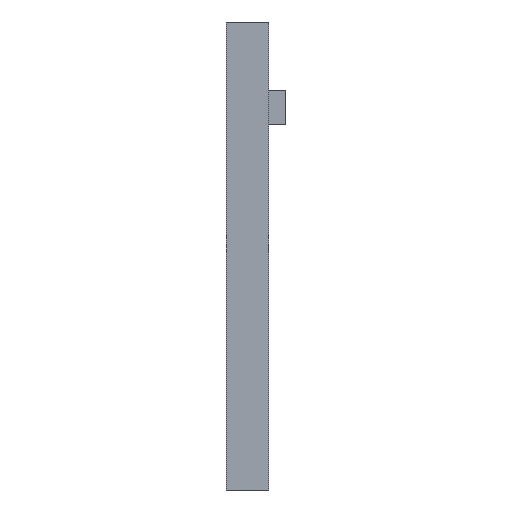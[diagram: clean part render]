
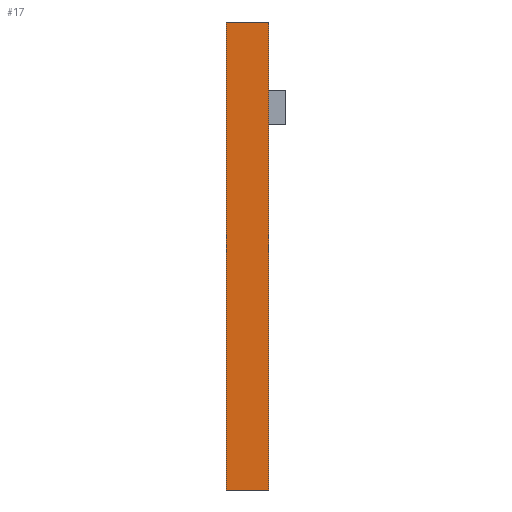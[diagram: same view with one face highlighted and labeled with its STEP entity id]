
A CAD part, left-side view. The second image highlights one B-rep face of the part: STEP entity #17.
In plain terms, the highlighted planar face has unit normal (-1, 0, 0).
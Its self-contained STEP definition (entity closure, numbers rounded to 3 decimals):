
#17 = ADVANCED_FACE('',(#18),#32,.F.);
#18 = FACE_BOUND('',#19,.F.);
#19 = EDGE_LOOP('',(#20,#55,#83,#111));
#20 = ORIENTED_EDGE('',*,*,#21,.F.);
#21 = EDGE_CURVE('',#22,#24,#26,.T.);
#22 = VERTEX_POINT('',#23);
#23 = CARTESIAN_POINT('',(-19.,2.,0.));
#24 = VERTEX_POINT('',#25);
#25 = CARTESIAN_POINT('',(-19.,2.,22.));
#26 = SURFACE_CURVE('',#27,(#31,#43),.PCURVE_S1.);
#27 = LINE('',#28,#29);
#28 = CARTESIAN_POINT('',(-19.,2.,0.));
#29 = VECTOR('',#30,1.);
#30 = DIRECTION('',(0.,0.,1.));
#31 = PCURVE('',#32,#37);
#32 = PLANE('',#33);
#33 = AXIS2_PLACEMENT_3D('',#34,#35,#36);
#34 = CARTESIAN_POINT('',(-19.,2.,0.));
#35 = DIRECTION('',(1.,0.,0.));
#36 = DIRECTION('',(0.,0.,1.));
#37 = DEFINITIONAL_REPRESENTATION('',(#38),#42);
#38 = LINE('',#39,#40);
#39 = CARTESIAN_POINT('',(0.,0.));
#40 = VECTOR('',#41,1.);
#41 = DIRECTION('',(1.,0.));
#42 = ( GEOMETRIC_REPRESENTATION_CONTEXT(2) 
PARAMETRIC_REPRESENTATION_CONTEXT() REPRESENTATION_CONTEXT('2D SPACE',''
  ) );
#43 = PCURVE('',#44,#49);
#44 = PLANE('',#45);
#45 = AXIS2_PLACEMENT_3D('',#46,#47,#48);
#46 = CARTESIAN_POINT('',(-19.,2.,0.));
#47 = DIRECTION('',(0.,1.,0.));
#48 = DIRECTION('',(0.,0.,1.));
#49 = DEFINITIONAL_REPRESENTATION('',(#50),#54);
#50 = LINE('',#51,#52);
#51 = CARTESIAN_POINT('',(0.,0.));
#52 = VECTOR('',#53,1.);
#53 = DIRECTION('',(1.,0.));
#54 = ( GEOMETRIC_REPRESENTATION_CONTEXT(2) 
PARAMETRIC_REPRESENTATION_CONTEXT() REPRESENTATION_CONTEXT('2D SPACE',''
  ) );
#55 = ORIENTED_EDGE('',*,*,#56,.T.);
#56 = EDGE_CURVE('',#22,#57,#59,.T.);
#57 = VERTEX_POINT('',#58);
#58 = CARTESIAN_POINT('',(-19.,4.,0.));
#59 = SURFACE_CURVE('',#60,(#64,#71),.PCURVE_S1.);
#60 = LINE('',#61,#62);
#61 = CARTESIAN_POINT('',(-19.,2.,0.));
#62 = VECTOR('',#63,1.);
#63 = DIRECTION('',(0.,1.,0.));
#64 = PCURVE('',#32,#65);
#65 = DEFINITIONAL_REPRESENTATION('',(#66),#70);
#66 = LINE('',#67,#68);
#67 = CARTESIAN_POINT('',(0.,0.));
#68 = VECTOR('',#69,1.);
#69 = DIRECTION('',(0.,-1.));
#70 = ( GEOMETRIC_REPRESENTATION_CONTEXT(2) 
PARAMETRIC_REPRESENTATION_CONTEXT() REPRESENTATION_CONTEXT('2D SPACE',''
  ) );
#71 = PCURVE('',#72,#77);
#72 = PLANE('',#73);
#73 = AXIS2_PLACEMENT_3D('',#74,#75,#76);
#74 = CARTESIAN_POINT('',(-19.,2.,0.));
#75 = DIRECTION('',(0.,0.,1.));
#76 = DIRECTION('',(1.,0.,0.));
#77 = DEFINITIONAL_REPRESENTATION('',(#78),#82);
#78 = LINE('',#79,#80);
#79 = CARTESIAN_POINT('',(0.,0.));
#80 = VECTOR('',#81,1.);
#81 = DIRECTION('',(0.,1.));
#82 = ( GEOMETRIC_REPRESENTATION_CONTEXT(2) 
PARAMETRIC_REPRESENTATION_CONTEXT() REPRESENTATION_CONTEXT('2D SPACE',''
  ) );
#83 = ORIENTED_EDGE('',*,*,#84,.T.);
#84 = EDGE_CURVE('',#57,#85,#87,.T.);
#85 = VERTEX_POINT('',#86);
#86 = CARTESIAN_POINT('',(-19.,4.,22.));
#87 = SURFACE_CURVE('',#88,(#92,#99),.PCURVE_S1.);
#88 = LINE('',#89,#90);
#89 = CARTESIAN_POINT('',(-19.,4.,0.));
#90 = VECTOR('',#91,1.);
#91 = DIRECTION('',(0.,0.,1.));
#92 = PCURVE('',#32,#93);
#93 = DEFINITIONAL_REPRESENTATION('',(#94),#98);
#94 = LINE('',#95,#96);
#95 = CARTESIAN_POINT('',(0.,-2.));
#96 = VECTOR('',#97,1.);
#97 = DIRECTION('',(1.,0.));
#98 = ( GEOMETRIC_REPRESENTATION_CONTEXT(2) 
PARAMETRIC_REPRESENTATION_CONTEXT() REPRESENTATION_CONTEXT('2D SPACE',''
  ) );
#99 = PCURVE('',#100,#105);
#100 = PLANE('',#101);
#101 = AXIS2_PLACEMENT_3D('',#102,#103,#104);
#102 = CARTESIAN_POINT('',(-19.,4.,0.));
#103 = DIRECTION('',(0.,1.,0.));
#104 = DIRECTION('',(0.,0.,1.));
#105 = DEFINITIONAL_REPRESENTATION('',(#106),#110);
#106 = LINE('',#107,#108);
#107 = CARTESIAN_POINT('',(0.,0.));
#108 = VECTOR('',#109,1.);
#109 = DIRECTION('',(1.,0.));
#110 = ( GEOMETRIC_REPRESENTATION_CONTEXT(2) 
PARAMETRIC_REPRESENTATION_CONTEXT() REPRESENTATION_CONTEXT('2D SPACE',''
  ) );
#111 = ORIENTED_EDGE('',*,*,#112,.F.);
#112 = EDGE_CURVE('',#24,#85,#113,.T.);
#113 = SURFACE_CURVE('',#114,(#118,#125),.PCURVE_S1.);
#114 = LINE('',#115,#116);
#115 = CARTESIAN_POINT('',(-19.,2.,22.));
#116 = VECTOR('',#117,1.);
#117 = DIRECTION('',(0.,1.,0.));
#118 = PCURVE('',#32,#119);
#119 = DEFINITIONAL_REPRESENTATION('',(#120),#124);
#120 = LINE('',#121,#122);
#121 = CARTESIAN_POINT('',(22.,0.));
#122 = VECTOR('',#123,1.);
#123 = DIRECTION('',(0.,-1.));
#124 = ( GEOMETRIC_REPRESENTATION_CONTEXT(2) 
PARAMETRIC_REPRESENTATION_CONTEXT() REPRESENTATION_CONTEXT('2D SPACE',''
  ) );
#125 = PCURVE('',#126,#131);
#126 = PLANE('',#127);
#127 = AXIS2_PLACEMENT_3D('',#128,#129,#130);
#128 = CARTESIAN_POINT('',(-19.,2.,22.));
#129 = DIRECTION('',(0.,0.,1.));
#130 = DIRECTION('',(1.,0.,0.));
#131 = DEFINITIONAL_REPRESENTATION('',(#132),#136);
#132 = LINE('',#133,#134);
#133 = CARTESIAN_POINT('',(0.,0.));
#134 = VECTOR('',#135,1.);
#135 = DIRECTION('',(0.,1.));
#136 = ( GEOMETRIC_REPRESENTATION_CONTEXT(2) 
PARAMETRIC_REPRESENTATION_CONTEXT() REPRESENTATION_CONTEXT('2D SPACE',''
  ) );
